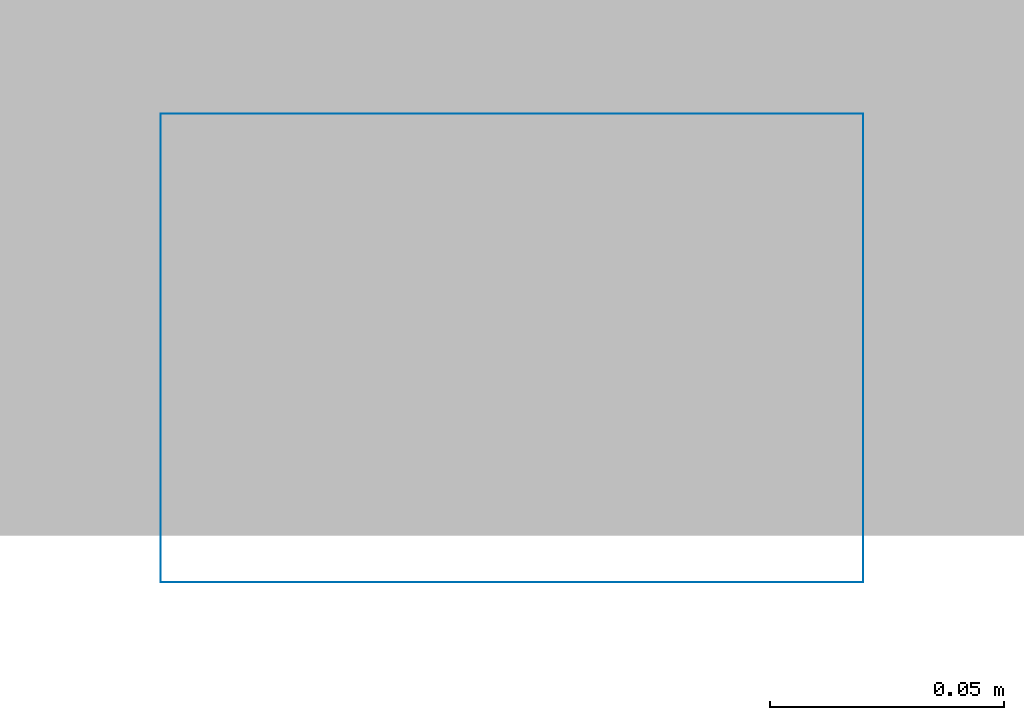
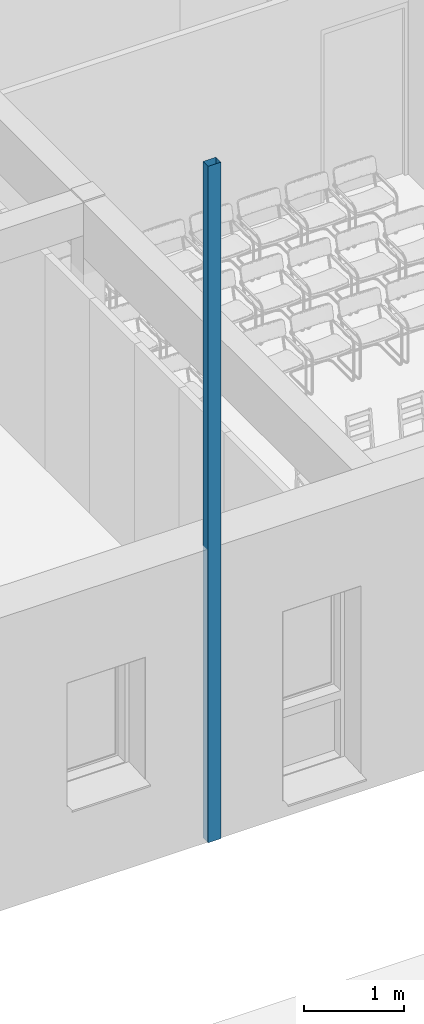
# One storey, part 36 of 91: 1 discrete accessory.
"""IFC2X3 building model written with IfcOpenShell, lengths in metres."""

import ifcopenshell
import ifcopenshell.guid

model = None  # the IFC model being written
_history = None  # IfcOwnerHistory: only IFC2X3 demands one
_inside = {}  # id of a spatial element -> (the spatial element, [elements in it])
_under = {}  # id of a project, library or spatial element -> (it, [spatial elements below it])
_declared = {}  # id of a project -> (the project, [libraries it declares])
_typed = {}  # id of a type object -> (the type object, [elements of that type])
_made_of = {}  # id of a material, layer set ... -> (it, [elements and type objects made of it])


def new_model(schema):
    """Start an empty IFC model of exactly this schema.

    Asked for "IFC4X3", IfcOpenShell would pick the latest addendum, in which some entities
    have other attributes; the version numbers below select the first issue.
    IFC2X3 requires an IfcOwnerHistory on every rooted entity: one is made here for all.
    """
    global model, _history
    if schema == "IFC4X3":
        model = ifcopenshell.file(schema_version=(4, 3, 0, 0))
    else:
        model = ifcopenshell.file(schema=schema)
    _inside.clear()
    _under.clear()
    _declared.clear()
    _typed.clear()
    _made_of.clear()
    _history = None
    if model.schema == "IFC2X3":
        org = make("IfcOrganization", Name="unknown")
        user = make(
            "IfcPersonAndOrganization",
            ThePerson=make("IfcPerson", FamilyName="unknown"),
            TheOrganization=org,
        )
        app = make(
            "IfcApplication",
            ApplicationDeveloper=org,
            Version="unknown",
            ApplicationFullName="unknown",
            ApplicationIdentifier="unknown",
        )
        _history = make(
            "IfcOwnerHistory",
            OwningUser=user,
            OwningApplication=app,
            ChangeAction="ADDED",
            CreationDate=0,
        )
    return model


def make(cls, **values):
    """One entity of the class cls with the attributes given. An attribute that is None is left unset."""
    return model.create_entity(
        cls, **{name: value for name, value in values.items() if value is not None}
    )


def entity(cls, *values):
    """Any entity or typed value of the class cls, its attributes in the order of the schema. None: left unset."""
    e = model.create_entity(cls)
    for i, value in enumerate(values):
        if value is not None:
            e[i] = value
    return e


def rooted(cls, **values):
    """An entity with a GlobalId (a new one), such as an element, a storey or a relation."""
    return make(cls, GlobalId=ifcopenshell.guid.new(), OwnerHistory=_history, **values)


def si_unit(unit_type, name, prefix=None):
    """IfcSIUnit, for example si_unit("LENGTHUNIT", "METRE", prefix="MILLI")."""
    return make("IfcSIUnit", UnitType=unit_type, Prefix=prefix, Name=name)


def converted_unit(unit_type, name, factor, base, dimensions=None, offset=None):
    """IfcConversionBasedUnit, such as the inch: factor (a typed value) times the base unit."""
    return make(
        "IfcConversionBasedUnit"
        if offset is None
        else "IfcConversionBasedUnitWithOffset",
        ConversionOffset=offset,
        Dimensions=None
        if dimensions is None
        else entity("IfcDimensionalExponents", *dimensions),
        UnitType=unit_type,
        Name=name,
        ConversionFactor=make(
            "IfcMeasureWithUnit", ValueComponent=factor, UnitComponent=base
        ),
    )


def derived_unit(unit_type, elements):
    """IfcDerivedUnit: a product of units, each with its exponent."""
    return make(
        "IfcDerivedUnit",
        Elements=[
            make("IfcDerivedUnitElement", Unit=unit, Exponent=power)
            for unit, power in elements
        ],
        UnitType=unit_type,
    )


def money_unit(currency):
    """IfcMonetaryUnit."""
    return make("IfcMonetaryUnit", Currency=currency)


def assignment(units):
    """IfcUnitAssignment: the units of a project."""
    return None if units is None else make("IfcUnitAssignment", Units=units)


def point(xyz):
    """IfcCartesianPoint."""
    return None if xyz is None else make("IfcCartesianPoint", Coordinates=xyz)


def direction(xyz):
    """IfcDirection."""
    return None if xyz is None else make("IfcDirection", DirectionRatios=xyz)


def frame(location, z_axis=None, x_axis=None):
    """IfcAxis2Placement3D, a coordinate frame: its origin and axes. An axis left out is left unset."""
    return make(
        "IfcAxis2Placement3D",
        Location=point(location),
        Axis=direction(z_axis),
        RefDirection=direction(x_axis),
    )


def origin_with_axes():
    """The frame at (0, 0, 0) with the z axis (0, 0, 1) and the x axis (1, 0, 0) written out."""
    return frame((0.0, 0.0, 0.0), z_axis=(0.0, 0.0, 1.0), x_axis=(1.0, 0.0, 0.0))


def place(relative_to, where):
    """IfcLocalPlacement: puts the frame where relative to a parent placement (None: the world)."""
    return make(
        "IfcLocalPlacement", PlacementRelTo=relative_to, RelativePlacement=where
    )


def context(
    kind, dimensions, precision=None, world=None, true_north=None, identifier=None
):
    """IfcGeometricRepresentationContext, for example the 3D "Model" context."""
    return make(
        "IfcGeometricRepresentationContext",
        ContextIdentifier=identifier,
        ContextType=kind,
        CoordinateSpaceDimension=dimensions,
        Precision=precision,
        WorldCoordinateSystem=world,
        TrueNorth=true_north,
    )


def subcontext(parent, identifier, kind, view, scale=None):
    """IfcGeometricRepresentationSubContext, for example "Body" below "Model"."""
    return make(
        "IfcGeometricRepresentationSubContext",
        ContextIdentifier=identifier,
        ContextType=kind,
        ParentContext=parent,
        TargetScale=scale,
        TargetView=view,
    )


def project(units=None, contexts=None):
    """IfcProject with its units and contexts."""
    return rooted(
        "IfcProject",
        Name="project",
        RepresentationContexts=contexts,
        UnitsInContext=assignment(units),
    )


def spatial(cls, under=None, at=None, **own):
    """A site, building, storey or space (cls), placed at a placement, below another one or the project."""
    s = rooted(cls, ObjectPlacement=at, **own)
    if under is not None:
        _under.setdefault(under.id(), (under, []))[1].append(s)
    return s


def faces_of(points, faces, orient=None, outer=None):
    """IfcFace entities. A face is a list of loops; a loop is a list of indices into points, from 0.

    orient and outer hold one flag for each loop. By default every Orientation is true, the
    first loop of a face is its IfcFaceOuterBound and the others are IfcFaceBound.
    """
    made = []
    for i, loops in enumerate(faces):
        bounds = []
        for j, loop in enumerate(loops):
            is_outer = j == 0 if outer is None else outer[i][j]
            bounds.append(
                make(
                    "IfcFaceOuterBound" if is_outer else "IfcFaceBound",
                    Bound=make("IfcPolyLoop", Polygon=[points[k] for k in loop]),
                    Orientation=True if orient is None else orient[i][j],
                )
            )
        made.append(make("IfcFace", Bounds=bounds))
    return made


def open_shell(faces, orient=None, outer=None):
    """The faces of one IfcOpenShell. surface_model builds it on its shared points."""
    return ("IfcOpenShell", faces, orient, outer)


def surface_model(cls, points, shells):
    """IfcFaceBasedSurfaceModel or IfcShellBasedSurfaceModel (cls): surfaces that need not close."""
    shared = [point(p) for p in points]
    made = [make(c, CfsFaces=faces_of(shared, fs, o, b)) for c, fs, o, b in shells]
    if cls == "IfcFaceBasedSurfaceModel":
        return make(cls, FbsmFaces=made)
    return make(cls, SbsmBoundary=made)


def shape(context_of_items, identifier, shape_type, items):
    """IfcShapeRepresentation: the items that make up one representation, for example the "Body"."""
    return make(
        "IfcShapeRepresentation",
        ContextOfItems=context_of_items,
        RepresentationIdentifier=identifier,
        RepresentationType=shape_type,
        Items=items,
    )


def source(mapping_origin, context_of_items, identifier, shape_type, items):
    """IfcRepresentationMap: a shape defined once, which mapped items show again and again."""
    return make(
        "IfcRepresentationMap",
        MappingOrigin=mapping_origin,
        MappedRepresentation=shape(context_of_items, identifier, shape_type, items),
    )


def transform(
    local_origin,
    x_axis=None,
    y_axis=None,
    z_axis=None,
    scale=None,
    scale2=None,
    scale3=None,
    uniform=True,
):
    """IfcCartesianTransformationOperator3D, or its non-uniform kind. x_axis, y_axis, z_axis: its Axis1, 2, 3."""
    if uniform:
        return make(
            "IfcCartesianTransformationOperator3D",
            Axis1=direction(x_axis),
            Axis2=direction(y_axis),
            LocalOrigin=point(local_origin),
            Scale=scale,
            Axis3=direction(z_axis),
        )
    return make(
        "IfcCartesianTransformationOperator3DnonUniform",
        Axis1=direction(x_axis),
        Axis2=direction(y_axis),
        LocalOrigin=point(local_origin),
        Scale=scale,
        Axis3=direction(z_axis),
        Scale2=scale2,
        Scale3=scale3,
    )


def mapped(mapping_source, mapping_target):
    """IfcMappedItem: shows the shape of a source again, moved by a transform."""
    return make(
        "IfcMappedItem", MappingSource=mapping_source, MappingTarget=mapping_target
    )


def made_of(thing, what):
    """Note that an element or type object is made of a material, layer set ...; save() writes the relation."""
    if what is not None:
        _made_of.setdefault(what.id(), (what, []))[1].append(thing)
    return thing


def type_object(cls, material=None, **own):
    """A type object (cls), such as IfcWallType, which elements share."""
    return made_of(rooted(cls, **own), material)


def element(
    cls,
    number,
    at=None,
    inside=None,
    cuts=None,
    type_object=None,
    material=None,
    context=None,
    identifier="Body",
    shape_type=None,
    held_by="IfcProductDefinitionShape",
    body=None,
    shapes=None,
    **own,
):
    """One element of the class cls, such as IfcWall. Its Tag is "e" and its number.

    at: its placement. inside: the storey or other place that contains it. cuts: it is an
    opening in that element (IfcRelVoidsElement). A single representation is given by context,
    identifier, shape_type and body (its items); several are given by shapes. held_by: the class
    of the entity that holds the representations. save() writes the other relations.
    """
    e = rooted(cls, Tag="e%d" % number, ObjectPlacement=at, **own)
    if body is not None:
        shapes = [shape(context, identifier, shape_type, body)]
    if shapes is not None:
        e.Representation = make(held_by, Representations=shapes)
    if inside is not None:
        _inside.setdefault(inside.id(), (inside, []))[1].append(e)
    if cuts is not None:
        rooted(
            "IfcRelVoidsElement", RelatingBuildingElement=cuts, RelatedOpeningElement=e
        )
    if type_object is not None:
        _typed.setdefault(type_object.id(), (type_object, []))[1].append(e)
    return made_of(e, material)


def aggregate(whole, parts):
    """IfcRelAggregates: a whole, such as a stair, and the parts it consists of."""
    return rooted("IfcRelAggregates", RelatingObject=whole, RelatedObjects=parts)


def save(model, path):
    """Write the relations noted so far, then the file.

    IfcRelAggregates (storeys below a building ...), IfcRelContainedInSpatialStructure (elements
    in a storey), IfcRelDefinesByType, IfcRelAssociatesMaterial and IfcRelDeclares: one each for
    every whole, place, type object, material and project.
    """
    for whole, parts in _under.values():
        aggregate(whole, parts)
    for where, things in _inside.values():
        rooted(
            "IfcRelContainedInSpatialStructure",
            RelatedElements=things,
            RelatingStructure=where,
        )
    for kind, things in _typed.values():
        rooted("IfcRelDefinesByType", RelatedObjects=things, RelatingType=kind)
    for what, things in _made_of.values():
        rooted("IfcRelAssociatesMaterial", RelatedObjects=things, RelatingMaterial=what)
    for by, libraries in _declared.values():
        rooted("IfcRelDeclares", RelatingContext=by, RelatedDefinitions=libraries)
    model.write(path)


model = new_model("IFC2X3")

# Units and contexts
model_context = context("Model", 3, precision=1e-05, world=origin_with_axes(), true_north=direction((0.0, 1.0)))
body_context = subcontext(model_context, "Body", "Model", "MODEL_VIEW")
ifc_project = project(units=[si_unit("LENGTHUNIT", "METRE"), si_unit("AREAUNIT", "SQUARE_METRE"), si_unit("VOLUMEUNIT", "CUBIC_METRE"), converted_unit("PLANEANGLEUNIT", "DEGREE", entity("IfcPlaneAngleMeasure", 0.0174532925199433), si_unit("PLANEANGLEUNIT", "RADIAN"), dimensions=[0, 0, 0, 0, 0, 0, 0]), money_unit("EUR"), converted_unit("TIMEUNIT", "Year", entity("IfcTimeMeasure", 31557600.0), si_unit("TIMEUNIT", "SECOND"), dimensions=[0, 0, 1, 0, 0, 0, 0]), si_unit("MASSUNIT", "GRAM", prefix="KILO"), si_unit("THERMODYNAMICTEMPERATUREUNIT", "DEGREE_CELSIUS"), si_unit("LUMINOUSINTENSITYUNIT", "LUMEN"), si_unit("ENERGYUNIT", "JOULE", prefix="MEGA"), derived_unit("THERMALCONDUCTANCEUNIT", [(si_unit("POWERUNIT", "WATT"), 1), (si_unit("LENGTHUNIT", "METRE"), -1), (si_unit("THERMODYNAMICTEMPERATUREUNIT", "KELVIN"), -1)]), derived_unit("SPECIFICHEATCAPACITYUNIT", [(si_unit("ENERGYUNIT", "JOULE"), 1), (si_unit("MASSUNIT", "GRAM", prefix="KILO"), -1), (si_unit("THERMODYNAMICTEMPERATUREUNIT", "KELVIN"), -1)]), derived_unit("MASSDENSITYUNIT", [(si_unit("MASSUNIT", "GRAM", prefix="KILO"), 1), (si_unit("VOLUMEUNIT", "CUBIC_METRE"), -1)])], contexts=[model_context])

# Site, building, storey
site_placement = place(None, origin_with_axes())
site = spatial("IfcSite", under=ifc_project, at=site_placement, Name="Site", CompositionType="ELEMENT")
building_placement = place(site_placement, origin_with_axes())
building = spatial("IfcBuilding", under=site, at=building_placement, Name="Bâtiment", CompositionType="ELEMENT")
storey_placement = place(building_placement, origin_with_axes())
storey = spatial("IfcBuildingStorey", under=building, at=storey_placement, Name="RDC", CompositionType="ELEMENT", Elevation=0.0)

# Discrete accessory
discrete_accessory_type = type_object("IfcDiscreteAccessoryType", Name="Tuyau descente 27")
shared_shape = source(origin_with_axes(), body_context, "Body", "SurfaceModel", [
    surface_model("IfcShellBasedSurfaceModel", [(-0.075, -0.05, 8.22), (-0.075, 0.05, 8.22), (-0.075, 0.05, 0.0), (-0.075, -0.05, 0.0), (0.075, 0.05, 8.22), (0.075, 0.05, 0.0), (0.075, -0.05, 8.22), (0.075, -0.05, 0.0)], [open_shell([[[0, 1, 2, 3]], [[1, 4, 5, 2]], [[6, 0, 3, 7]], [[4, 6, 7, 5]]])]),
])
discrete_accessory_placement = place(storey_placement, frame((52.34299999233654, -27.39556215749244, 0.0), z_axis=(0.0, 0.0, 1.0), x_axis=(1.0, 0.0, 0.0)))
element("IfcDiscreteAccessory", 1, at=discrete_accessory_placement, inside=storey, type_object=discrete_accessory_type, Name="D.E.P", context=body_context, shape_type="MappedRepresentation", body=[
    mapped(shared_shape, transform((0.0, 0.0, 0.0))),
])

save(model, "model.ifc")
